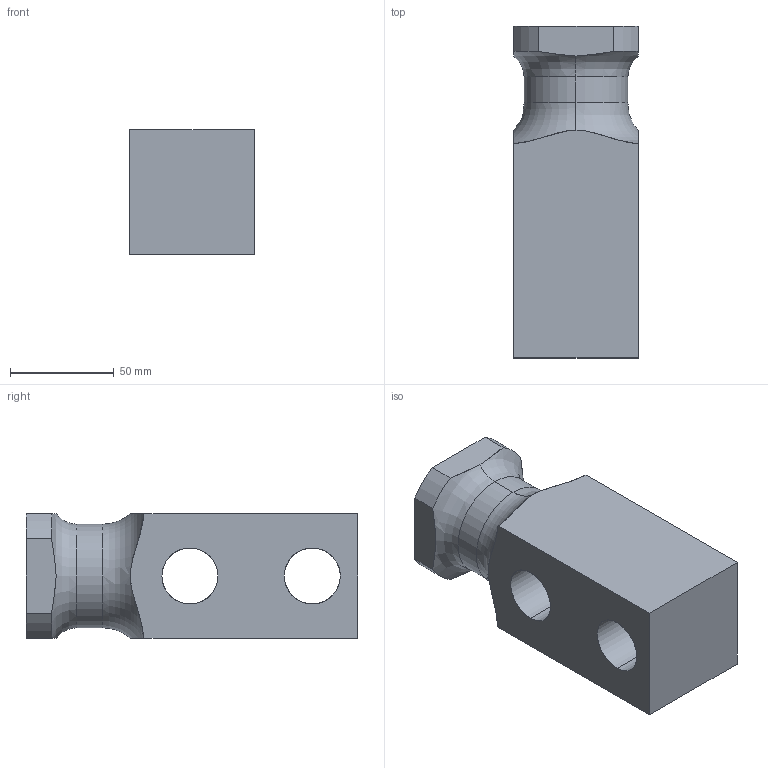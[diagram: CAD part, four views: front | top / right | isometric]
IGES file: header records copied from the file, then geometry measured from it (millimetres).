
Start section: START RECORD GO HERE.
Global section: file name: 395V-04-060-160.igs; native system: DASSAULT SYSTEMES CATIA V5 R20 - www.3ds.com; preprocessor: CATIA Version 5 Release 20 ; author: Utente; organization: NB04-ASUS; date: 20200410.131552; units: millimetre
Bounding box: 60 x 160 x 60 mm (x, y, z)
Surface area: 53044.4 mm2 (no closed solid volume)
Topology: 0 solids, 0 shells, 30 faces, 158 edges, 158 vertices
Faces by surface type: revolution 18, extrusion 12
